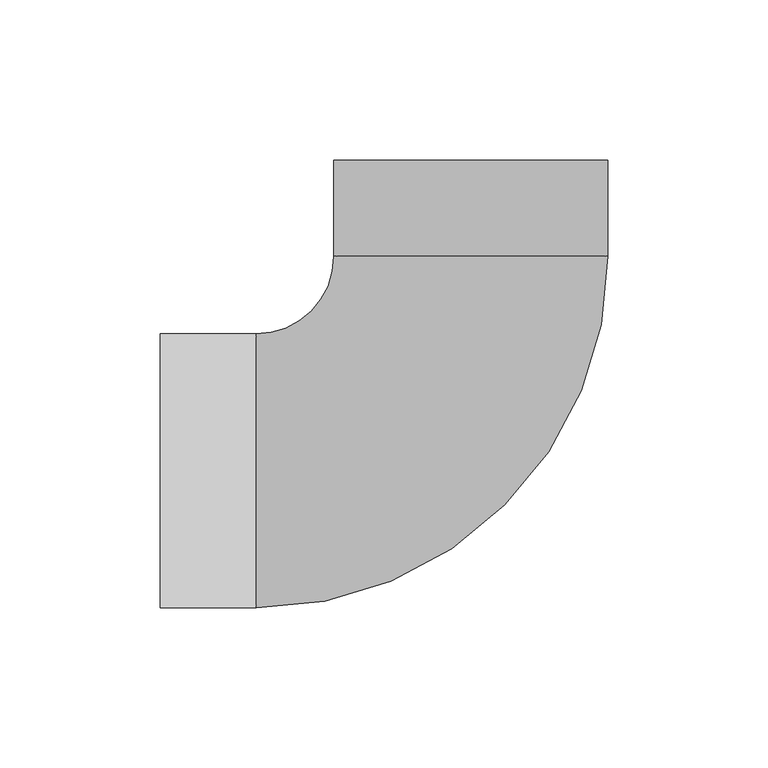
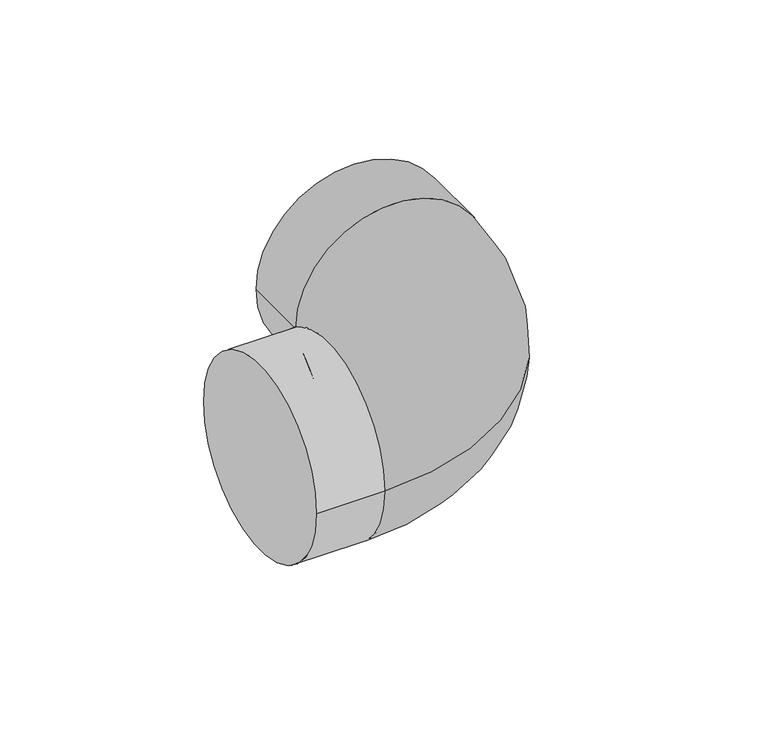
"""IFC4 building model written with IfcOpenShell, lengths in millimetres: pipe fitting geometry, 01101002 : Joelho a 90º."""

from ifc_helpers import new_model, si_unit, point, frame, origin, place, context, project, spatial, circle_curve, ellipse_curve, trimmed, source, transform, mapped, element, save
from ifc_brep_helpers import plane_surface, cylinder_surface, revolved_surface, advanced_brep


def pipe_fitting_45cffad9(model_context):
    return source(origin(), model_context, "Body", "AdvancedBrep", [
        advanced_brep(
        [(-67.0, -42.75, 0.0), (42.75, 67.0, 0.0), (-42.75, 67.0, 0.0), (-67.0, 42.75, 0.0), (-42.75, 97.0, 0.0), (42.75, 97.0, 0.0), (-97.0, 42.75, 0.0), (-97.0, -42.75, 0.0)],
        [
            (0, 1, circle_curve(frame((-67.0, 67.0, 0.0), z_axis=(0.0, 0.0, 1.0), x_axis=(1.0, 0.0, 0.0)), 109.75)),
            (1, 2, circle_curve(frame((0.0, 67.0, 0.0), z_axis=(0.0, -1.0, 0.0), x_axis=(1.0, 0.0, 0.0)), 42.75)),
            (2, 3, circle_curve(frame((-67.0, 67.0, 0.0), z_axis=(0.0, 0.0, -1.0), x_axis=(1.0, 0.0, 0.0)), 24.25)),
            (3, 0, circle_curve(frame((-67.0, 0.0, 0.0), z_axis=(1.0, 0.0, 0.0), x_axis=(0.0, -1.0, 0.0)), 42.75)),
            (2, 1, circle_curve(frame((0.0, 67.0, 0.0), z_axis=(0.0, -1.0, 0.0), x_axis=(1.0, 0.0, 0.0)), 42.75)),
            (0, 3, circle_curve(frame((-67.0, 0.0, 0.0), z_axis=(1.0, 0.0, 0.0), x_axis=(0.0, -1.0, 0.0)), 42.75)),
            (4, 5, circle_curve(frame((0.0, 97.0, 0.0), z_axis=(0.0, 1.0, 0.0), x_axis=(1.0, 0.0, 0.0)), 42.75)),
            (5, 4, circle_curve(frame((0.0, 97.0, 0.0), z_axis=(0.0, 1.0, 0.0), x_axis=(1.0, 0.0, 0.0)), 42.75)),
            (6, 7, circle_curve(frame((-97.0, 0.0, 0.0), z_axis=(-1.0, 0.0, 0.0), x_axis=(0.0, -1.0, 0.0)), 42.75)),
            (7, 6, circle_curve(frame((-97.0, 0.0, 0.0), z_axis=(-1.0, 0.0, 0.0), x_axis=(0.0, -1.0, 0.0)), 42.75)),
            (3, 6),
            (7, 0),
            (4, 2),
            (1, 5),
        ],
        [
            revolved_surface(trimmed(ellipse_curve(frame((0.0, 67.0, 0.0), z_axis=(0.0, 1.0, 0.0), x_axis=(1.0, 0.0, 0.0)), 42.75, 42.75), [point((-42.75, 67.0, 0.0))], [point((42.75, 67.0, 0.0))], True, "CARTESIAN"), (-67.0, 67.0, 0.0), (0.0, 0.0, -1.0)),
            revolved_surface(trimmed(ellipse_curve(frame((0.0, 67.0, 0.0), z_axis=(0.0, 1.0, 0.0), x_axis=(1.0, 0.0, 0.0)), 42.75, 42.75), [point((42.75, 67.0, 0.0))], [point((-42.75, 67.0, 0.0))], True, "CARTESIAN"), (-67.0, 67.0, 0.0), (0.0, 0.0, -1.0)),
            plane_surface(frame((0.0, 97.0, 0.0), z_axis=(0.0, 1.0, 0.0), x_axis=(0.0, 0.0, 1.0))),
            plane_surface(frame((-97.0, 0.0, 0.0), z_axis=(-1.0, 0.0, 0.0), x_axis=(0.0, 0.0, 1.0))),
            cylinder_surface(frame((-67.0, 0.0, 0.0), z_axis=(1.0, 0.0, 0.0), x_axis=(0.0, -1.0, 0.0)), 42.75),
            cylinder_surface(frame((0.0, 97.0, 0.0), z_axis=(0.0, 1.0, 0.0), x_axis=(1.0, 0.0, 0.0)), 42.75),
        ],
        [
            (0, [[1, 2, 3, 4]]),
            (1, [[-3, 5, -1, 6]]),
            (2, [[7, 8]]),
            (3, [[9, 10]]),
            (4, [[-4, 11, -10, 12]]),
            (4, [[-6, -12, -9, -11]]),
            (5, [[-7, 13, -2, 14]]),
            (5, [[-8, -14, -5, -13]]),
        ],
    ),
    ])


if __name__ == "__main__":
    model = new_model("IFC4")
    model_context = context("Model", 3, world=origin())
    ifc_project = project(units=[si_unit("LENGTHUNIT", "METRE", prefix="MILLI")], contexts=[model_context])
    site = spatial("IfcSite", under=ifc_project)
    building = spatial("IfcBuilding", under=site)
    placement = place(None, origin())
    pipe_fitting_shape = pipe_fitting_45cffad9(model_context)
    element("IfcPipeFitting", 1, ObjectType="01101002 : Joelho a 90º", at=placement, inside=building, context=model_context, shape_type="MappedRepresentation", body=[
        mapped(pipe_fitting_shape, transform((0.0, 0.0, 0.0), x_axis=(1.0, 0.0, 0.0), y_axis=(0.0, 1.0, 0.0), z_axis=(0.0, 0.0, 1.0))),
    ])
    save(model, "model.ifc")
